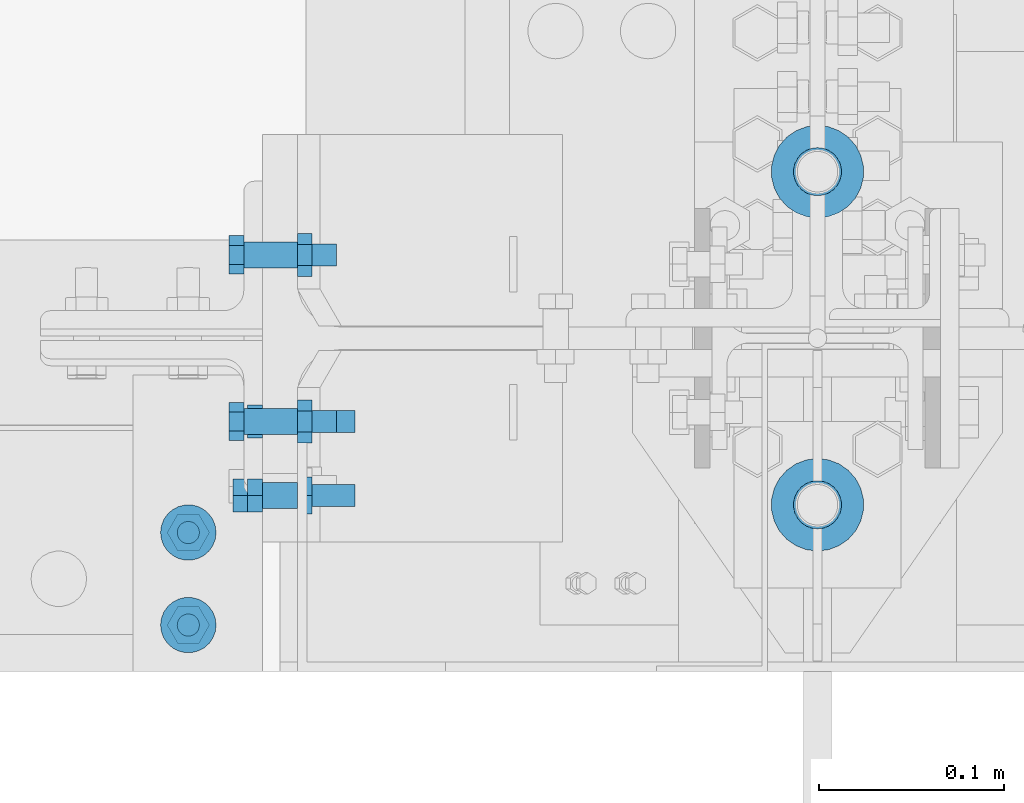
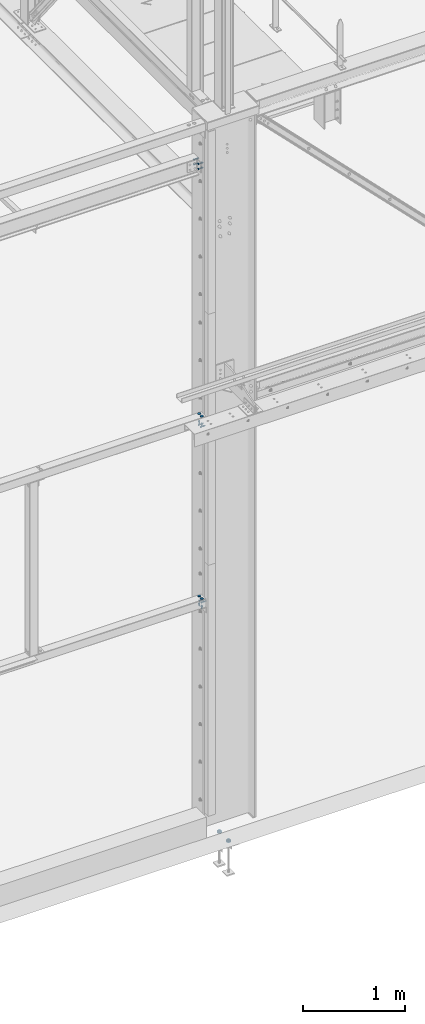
# One storey, part 219 of 362: 14 mechanical fasteners.
"""IFC2X3 building model written with IfcOpenShell, lengths in millimetres."""

from ifc_helpers import new_model, si_unit, frame, origin_with_axes, origin_2d_with_axis, place, context, subcontext, project, spatial, polyline, circle, outline, extrude, source, transform, mapped, material, type_object, element, save


model = new_model("IFC2X3")

# Units and contexts
model_context = context("Model", 3, precision=1e-05, world=origin_with_axes())
body_context = subcontext(model_context, "Body", "Model", "MODEL_VIEW")
ifc_project = project(units=[si_unit("LENGTHUNIT", "METRE", prefix="MILLI"), si_unit("AREAUNIT", "SQUARE_METRE"), si_unit("VOLUMEUNIT", "CUBIC_METRE"), si_unit("MASSUNIT", "GRAM", prefix="KILO"), si_unit("TIMEUNIT", "SECOND"), si_unit("PLANEANGLEUNIT", "RADIAN"), si_unit("SOLIDANGLEUNIT", "STERADIAN"), si_unit("THERMODYNAMICTEMPERATUREUNIT", "DEGREE_CELSIUS"), si_unit("LUMINOUSINTENSITYUNIT", "LUMEN")], contexts=[model_context])

# Site, building, storey
site_placement = place(None, origin_with_axes())
site = spatial("IfcSite", under=ifc_project, at=site_placement, Name="Undefined", CompositionType="ELEMENT")
building_placement = place(site_placement, origin_with_axes())
building = spatial("IfcBuilding", under=site, at=building_placement, Name="Undefined", CompositionType="ELEMENT")
storey_placement = place(building_placement, origin_with_axes())
storey = spatial("IfcBuildingStorey", under=building, at=storey_placement, Name="Undefined", CompositionType="ELEMENT", Elevation=0.0)

# Mechanical fasteners
ifc_material_1 = material(Name="8.8-SB-ZINGUE")
mechanical_fastener_type = type_object("IfcMechanicalFastenerType", Name="Bolt assembly")
shared_shape_1 = source(origin_with_axes(), body_context, "Body", "SweptSolid", [
    extrude(circle(Radius=7.0, at=origin_2d_with_axis()), frame((0.0, -0.100011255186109, 0.0), z_axis=(0.0, 1.0, 0.0), x_axis=(1.0, 0.0, 0.0)), (0.0, 0.0, 1.0), 4.1),
    extrude(circle(Radius=7.0, at=origin_2d_with_axis()), frame((0.0, -6.9, 0.0), z_axis=(0.0, 1.0, 0.0), x_axis=(1.0, 0.0, 0.0)), (0.0, 0.0, 1.0), 7.0),
    extrude(outline(polyline([(10.39230484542, 0.0), (5.19615242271, 9.00000000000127), (-5.19615242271, 9.00000000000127), (-10.39230484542, 0.0), (-5.19615242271, -9.00000000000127), (5.19615242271, -9.00000000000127), (10.39230484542, 0.0)])), frame((0.0, -14.92, 0.0), z_axis=(0.0, 1.0, 0.0), x_axis=(1.0, 0.0, 0.0)), (0.0, 0.0, 1.0), 7.92),
    extrude(circle(Radius=6.0, at=origin_2d_with_axis()), frame((0.0, -7.0, 0.0), z_axis=(0.0, 1.0, 0.0), x_axis=(1.0, 0.0, 0.0)), (0.0, 0.0, 1.0), 30.0),
    extrude(outline(polyline([(11.5008173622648, 0.0), (5.7504086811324, 9.96000000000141), (-5.7504086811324, 9.96000000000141), (-11.5008173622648, 0.0), (-5.7504086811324, -9.96000000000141), (5.7504086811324, -9.96000000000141), (11.5008173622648, 0.0)])), frame((0.0, 4.00000005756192, 0.0), z_axis=(0.0, 1.0, 0.0), x_axis=(1.0, 0.0, 0.0)), (0.0, 0.0, 1.0), 7.92),
])
mechanical_fastener_1_placement = place(storey_placement, frame((12339.9960916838, -130.000007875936, 2760.0), z_axis=(0.0, -1.0, 0.0), x_axis=(1.0, 0.0, 0.0)))
element("IfcMechanicalFastener", 1, at=mechanical_fastener_1_placement, inside=storey, type_object=mechanical_fastener_type, material=ifc_material_1, Name="Bolt assembly", NominalDiameter=12.0, NominalLength=30.0, context=body_context, shape_type="MappedRepresentation", body=[
    mapped(shared_shape_1, transform((0.0, 0.0, 25.0))),
    mapped(shared_shape_1, transform((0.0, 0.0, -25.0))),
])
ifc_material_2 = material(Name="6.8")
shared_shape_2 = source(origin_with_axes(), body_context, "Body", "SweptSolid", [
    extrude(circle(Radius=15.0, at=origin_2d_with_axis()), frame((0.0, -3.99609776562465, 0.0), z_axis=(0.0, 1.0, 0.0), x_axis=(1.0, 0.0, 0.0)), (0.0, 0.0, 1.0), 4.1),
])
for number, where, z_axis, x_axis, name in (
    (2, (12339.9960921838, -130.000008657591, 2859.99609804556), (0.0, -1.0, 0.0), (1.0, 0.0, 0.0), "Bolt assembly"),
    (3, (12339.9960921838, -130.000008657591, 5039.99609804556), (0.0, -1.0, 0.0), (1.0, 0.0, 0.0), "Bolt assembly"),
):
    element("IfcMechanicalFastener", number, at=place(storey_placement, frame(where, z_axis=z_axis, x_axis=x_axis)), inside=storey, type_object=mechanical_fastener_type, material=ifc_material_2, Name=name, NominalDiameter=30.0, NominalLength=4.0, context=body_context, shape_type="MappedRepresentation", body=[
        mapped(shared_shape_2, transform((0.0, 0.0, 25.0))),
        mapped(shared_shape_2, transform((0.0, 0.0, -25.0))),
    ])
shared_shape_3 = source(origin_with_axes(), body_context, "Body", "SweptSolid", [
    extrude(circle(Radius=7.0, at=origin_2d_with_axis()), frame((0.0, 0.00127934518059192, 0.0), z_axis=(0.0, 1.0, 0.0), x_axis=(1.0, 0.0, 0.0)), (0.0, 0.0, 1.0), 19.1),
    extrude(outline(polyline([(10.39230484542, 0.0), (5.19615242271, 9.00000000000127), (-5.19615242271, 9.00000000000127), (-10.39230484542, 0.0), (-5.19615242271, -9.00000000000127), (5.19615242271, -9.00000000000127), (10.39230484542, 0.0)])), frame((0.0, -7.91872065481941, 0.0), z_axis=(0.0, 1.0, 0.0), x_axis=(1.0, 0.0, 0.0)), (0.0, 0.0, 1.0), 7.92),
    extrude(circle(Radius=6.0, at=origin_2d_with_axis()), frame((0.0, 0.00127934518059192, 0.0), z_axis=(0.0, 1.0, 0.0), x_axis=(1.0, 0.0, 0.0)), (0.0, 0.0, 1.0), 50.0),
    extrude(outline(polyline([(11.5008173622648, 0.0), (5.7504086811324, 9.96000000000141), (-5.7504086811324, 9.96000000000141), (-11.5008173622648, 0.0), (-5.7504086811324, -9.96000000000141), (5.7504086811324, -9.96000000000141), (11.5008173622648, 0.0)])), frame((0.0, 19.001279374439, 0.0), z_axis=(0.0, 1.0, 0.0), x_axis=(1.0, 0.0, 0.0)), (0.0, 0.0, 1.0), 7.92),
])
mechanical_fastener_2_placement = place(storey_placement, frame((12379.996834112, -65.0000001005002, 2759.99219604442), z_axis=(0.0, 1.0, 0.0), x_axis=(5.58310000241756e-05, -2.99999998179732e-09, 0.99999999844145)))
element("IfcMechanicalFastener", 4, at=mechanical_fastener_2_placement, inside=storey, type_object=mechanical_fastener_type, material=ifc_material_1, Name="Bolt assembly", NominalDiameter=12.0, NominalLength=50.0, context=body_context, shape_type="MappedRepresentation", body=[
    mapped(shared_shape_3, transform((1.70530256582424e-12, 0.0, -20.0))),
    mapped(shared_shape_3, transform((-1.70530256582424e-12, 0.0, 20.0))),
])
shared_shape_4 = source(origin_with_axes(), body_context, "Body", "SweptSolid", [
    extrude(circle(Radius=7.0, at=origin_2d_with_axis()), frame((0.0, -0.09803395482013, 0.0), z_axis=(0.0, 1.0, 0.0), x_axis=(1.0, 0.0, 0.0)), (0.0, 0.0, 1.0), 19.1),
    extrude(circle(Radius=7.0, at=origin_2d_with_axis()), frame((0.0, -7.90074147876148, 0.0), z_axis=(0.0, 1.0, 0.0), x_axis=(1.0, 0.0, 0.0)), (0.0, 0.0, 1.0), 8.0),
    extrude(outline(polyline([(10.39230484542, 0.0), (5.19615242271, 9.00000000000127), (-5.19615242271, 9.00000000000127), (-10.39230484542, 0.0), (-5.19615242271, -9.00000000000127), (5.19615242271, -9.00000000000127), (10.39230484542, 0.0)])), frame((0.0, -15.9207414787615, 0.0), z_axis=(0.0, 1.0, 0.0), x_axis=(1.0, 0.0, 0.0)), (0.0, 0.0, 1.0), 7.92),
    extrude(circle(Radius=6.0, at=origin_2d_with_axis()), frame((0.0, -8.00074147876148, 0.0), z_axis=(0.0, 1.0, 0.0), x_axis=(1.0, 0.0, 0.0)), (0.0, 0.0, 1.0), 50.0),
    extrude(outline(polyline([(11.5008173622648, 0.0), (5.7504086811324, 9.96000000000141), (-5.7504086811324, 9.96000000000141), (-11.5008173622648, 0.0), (-5.7504086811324, -9.96000000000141), (5.7504086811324, -9.96000000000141), (11.5008173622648, 0.0)])), frame((0.0, 19.001966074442, 0.0), z_axis=(0.0, 1.0, 0.0), x_axis=(1.0, 0.0, 0.0)), (0.0, 0.0, 1.0), 7.92),
])
mechanical_fastener_3_placement = place(storey_placement, frame((12379.996834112, -65.0000001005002, 4859.99219604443), z_axis=(0.0, 1.0, 0.0), x_axis=(5.58310000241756e-05, -2.99999998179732e-09, 0.99999999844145)))
element("IfcMechanicalFastener", 5, at=mechanical_fastener_3_placement, inside=storey, type_object=mechanical_fastener_type, material=ifc_material_1, Name="Bolt assembly", NominalDiameter=12.0, NominalLength=50.0, context=body_context, shape_type="MappedRepresentation", body=[
    mapped(shared_shape_4, transform((1.70530256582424e-12, 0.0, -20.0))),
    mapped(shared_shape_4, transform((-1.70530256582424e-12, 0.0, 20.0))),
])
shared_shape_5 = source(origin_with_axes(), body_context, "Body", "SweptSolid", [
    extrude(circle(Radius=7.0, at=origin_2d_with_axis()), frame((0.0, -0.0960977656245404, 0.0), z_axis=(0.0, 1.0, 0.0), x_axis=(1.0, 0.0, 0.0)), (0.0, 0.0, 1.0), 4.1),
    extrude(circle(Radius=7.0, at=origin_2d_with_axis()), frame((0.0, -7.9, 0.0), z_axis=(0.0, 1.0, 0.0), x_axis=(1.0, 0.0, 0.0)), (0.0, 0.0, 1.0), 8.0),
    extrude(outline(polyline([(10.39230484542, 0.0), (5.19615242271, 9.00000000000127), (-5.19615242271, 9.00000000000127), (-10.39230484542, 0.0), (-5.19615242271, -9.00000000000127), (5.19615242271, -9.00000000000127), (10.39230484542, 0.0)])), frame((0.0, -15.92, 0.0), z_axis=(0.0, 1.0, 0.0), x_axis=(1.0, 0.0, 0.0)), (0.0, 0.0, 1.0), 7.92),
    extrude(circle(Radius=6.0, at=origin_2d_with_axis()), frame((0.0, -8.0, 0.0), z_axis=(0.0, 1.0, 0.0), x_axis=(1.0, 0.0, 0.0)), (0.0, 0.0, 1.0), 30.0),
    extrude(outline(polyline([(11.5008173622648, 0.0), (5.7504086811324, 9.96000000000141), (-5.7504086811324, 9.96000000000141), (-11.5008173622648, 0.0), (-5.7504086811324, -9.96000000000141), (5.7504086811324, -9.96000000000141), (11.5008173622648, 0.0)])), frame((0.0, 4.00390223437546, 0.0), z_axis=(0.0, 1.0, 0.0), x_axis=(1.0, 0.0, 0.0)), (0.0, 0.0, 1.0), 7.92),
])
mechanical_fastener_4_placement = place(storey_placement, frame((12339.9960916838, -130.00000787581, 4939.99609804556), z_axis=(0.0, -1.0, 0.0), x_axis=(1.0, 0.0, 0.0)))
element("IfcMechanicalFastener", 6, at=mechanical_fastener_4_placement, inside=storey, type_object=mechanical_fastener_type, material=ifc_material_1, Name="Bolt assembly", NominalDiameter=12.0, NominalLength=30.0, context=body_context, shape_type="MappedRepresentation", body=[
    mapped(shared_shape_5, transform((0.0, 0.0, 25.0))),
    mapped(shared_shape_5, transform((0.0, 0.0, -25.0))),
])
shared_shape_6 = source(origin_with_axes(), body_context, "Body", "SweptSolid", [
    extrude(circle(Radius=7.0, at=origin_2d_with_axis()), frame((0.0, -0.09803395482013, 0.0), z_axis=(0.0, 1.0, 0.0), x_axis=(1.0, 0.0, 0.0)), (0.0, 0.0, 1.0), 19.1),
    extrude(circle(Radius=7.0, at=origin_2d_with_axis()), frame((0.0, -9.9, 0.0), z_axis=(0.0, 1.0, 0.0), x_axis=(1.0, 0.0, 0.0)), (0.0, 0.0, 1.0), 10.0),
    extrude(outline(polyline([(10.39230484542, 0.0), (5.19615242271, 9.00000000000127), (-5.19615242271, 9.00000000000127), (-10.39230484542, 0.0), (-5.19615242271, -9.00000000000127), (5.19615242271, -9.00000000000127), (10.39230484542, 0.0)])), frame((0.0, -17.92, 0.0), z_axis=(0.0, 1.0, 0.0), x_axis=(1.0, 0.0, 0.0)), (0.0, 0.0, 1.0), 7.92),
    extrude(circle(Radius=6.0, at=origin_2d_with_axis()), frame((0.0, -10.0000010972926, 0.0), z_axis=(0.0, 1.0, 0.0), x_axis=(1.0, 0.0, 0.0)), (0.0, 0.0, 1.0), 50.0),
    extrude(outline(polyline([(11.5008173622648, 0.0), (5.7504086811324, 9.96000000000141), (-5.7504086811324, 9.96000000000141), (-11.5008173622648, 0.0), (-5.7504086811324, -9.96000000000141), (5.7504086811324, -9.96000000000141), (11.5008173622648, 0.0)])), frame((0.0, 19.001966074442, 0.0), z_axis=(0.0, 1.0, 0.0), x_axis=(1.0, 0.0, 0.0)), (0.0, 0.0, 1.0), 7.92),
])
for number, where, z_axis, x_axis, name in (
    (7, (12379.9978571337, 44.9977331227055, 7978.55473722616), (0.0, 0.0, -1.0), (0.0, 1.0, 0.0), "Bolt assembly"),
    (8, (12379.9978571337, 44.9977331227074, 7918.52511536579), (0.0, 0.0, -1.0), (0.0, 1.0, 0.0), "Bolt assembly"),
    (9, (12379.9978571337, -45.0022668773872, 7921.3535206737), (0.0, 0.0, 1.0), (0.0, -1.0, 0.0), "Bolt assembly"),
    (10, (12379.9978571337, -45.0022668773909, 7981.38314253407), (0.0, 0.0, 1.0), (0.0, -1.0, 0.0), "Bolt assembly"),
):
    element("IfcMechanicalFastener", number, at=place(storey_placement, frame(where, z_axis=z_axis, x_axis=x_axis)), inside=storey, type_object=mechanical_fastener_type, material=ifc_material_1, Name=name, NominalDiameter=12.0, NominalLength=50.0, context=body_context, shape_type="MappedRepresentation", body=[
        mapped(shared_shape_6, transform((0.0, 0.0, 0.0))),
    ])
shared_shape_7 = source(origin_with_axes(), body_context, "Body", "SweptSolid", [
    extrude(circle(Radius=25.0, at=origin_2d_with_axis()), frame((0.0, -14.999999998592, 0.0), z_axis=(0.0, 1.0, 0.0), x_axis=(1.0, 0.0, 0.0)), (0.0, 0.0, 1.0), 15.1),
])
for number, where, z_axis, x_axis, name in (
    (11, (12680.0000000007, -90.0028495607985, -200.000000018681), (-1.0, 0.0, 0.0), (0.0, 1.0, 0.0), "Bolt assembly"),
    (12, (12680.0000000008, 89.9971504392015, -200.000000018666), (1.0, 0.0, 0.0), (0.0, -1.0, 0.0), "Bolt assembly"),
):
    element("IfcMechanicalFastener", number, at=place(storey_placement, frame(where, z_axis=z_axis, x_axis=x_axis)), inside=storey, type_object=mechanical_fastener_type, material=ifc_material_2, Name=name, NominalDiameter=30.0, NominalLength=15.0, context=body_context, shape_type="MappedRepresentation", body=[
        mapped(shared_shape_7, transform((0.0, 0.0, 0.0))),
    ])
shared_shape_8 = source(origin_with_axes(), body_context, "Body", "SweptSolid", [
    extrude(circle(Radius=13.0, at=origin_2d_with_axis()), frame((0.0, -14.999999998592, 0.0), z_axis=(0.0, 1.0, 0.0), x_axis=(1.0, 0.0, 0.0)), (0.0, 0.0, 1.0), 15.1),
])
for number, where, z_axis, x_axis, name in (
    (13, (12680.0, -90.0028495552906, -185.0), (1.0, 0.0, 0.0), (0.0, -1.0, 0.0), "Bolt assembly"),
    (14, (12680.0, 89.9971504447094, -185.0), (1.0, 0.0, 0.0), (0.0, -1.0, 0.0), "Bolt assembly"),
):
    element("IfcMechanicalFastener", number, at=place(storey_placement, frame(where, z_axis=z_axis, x_axis=x_axis)), inside=storey, type_object=mechanical_fastener_type, material=ifc_material_2, Name=name, NominalDiameter=24.0, NominalLength=15.0, context=body_context, shape_type="MappedRepresentation", body=[
        mapped(shared_shape_8, transform((0.0, 0.0, 0.0))),
    ])

save(model, "model.ifc")
